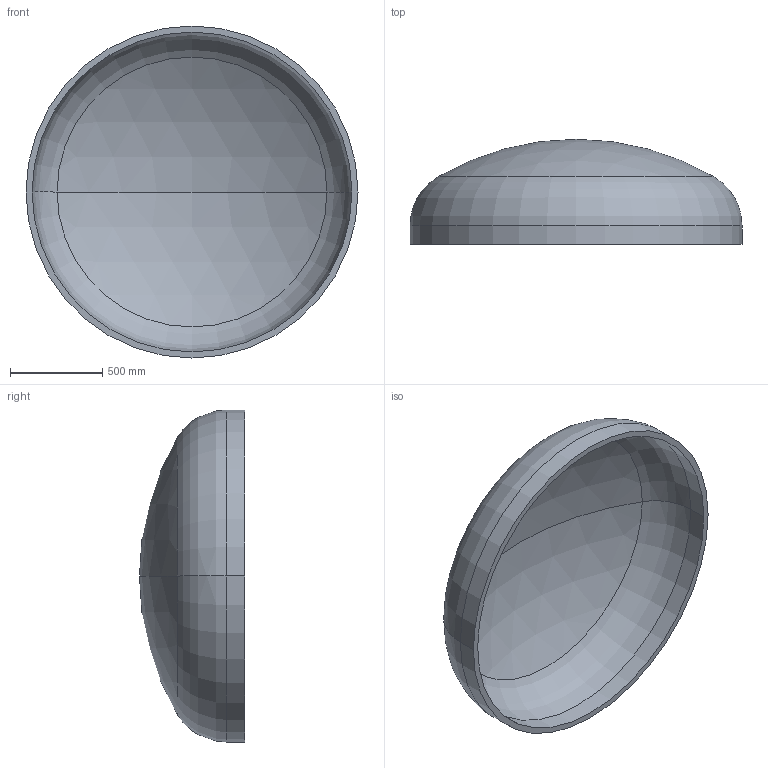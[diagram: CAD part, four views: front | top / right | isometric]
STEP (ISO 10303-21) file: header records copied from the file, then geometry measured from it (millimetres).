
FILE_DESCRIPTION (( 'STEP AP203' ), '1' );
FILE_NAME ('DIN 28013 Korbbogenform_-_Boden DIN 28013 - 1800 x 100 - I - s=33.step', '2016-07-01T12:26:48', ( '' ), ( '' ), 'SwSTEP 2.0', 'SolidWorks 2013', '' );
FILE_SCHEMA (( 'CONFIG_CONTROL_DESIGN' ));
Length unit declared in the file: millimetre
Products named in the file (1): DIN 28013 Korbbogenform_-_Boden DIN 28013 - 1800 x 100 - I - s=33
Bounding box: 1800 x 569.63 x 1800 mm (x, y, z)
Volume: 131667670.5 mm3; surface area: 8165326.4 mm2
Topology: 1 solids, 1 shells, 13 faces, 24 edges, 14 vertices
Faces by surface type: torus 4, cylinder 4, sphere 4, plane 1
Entity records: 407 total; most frequent: DIRECTION 72, CARTESIAN_POINT 52, ORIENTED_EDGE 48, AXIS2_PLACEMENT_3D 34, EDGE_CURVE 24, CIRCLE 20, EDGE_LOOP 14, VERTEX_POINT 14
